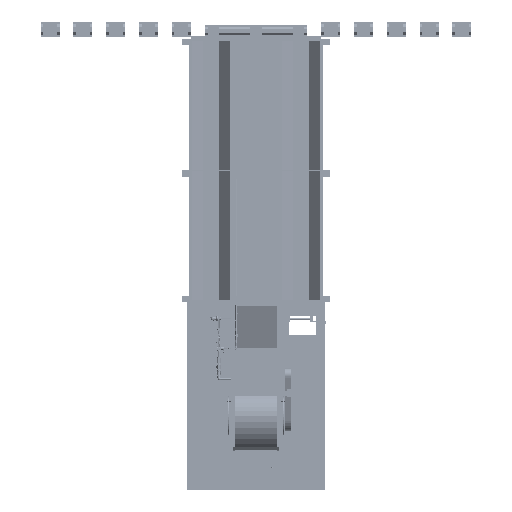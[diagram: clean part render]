
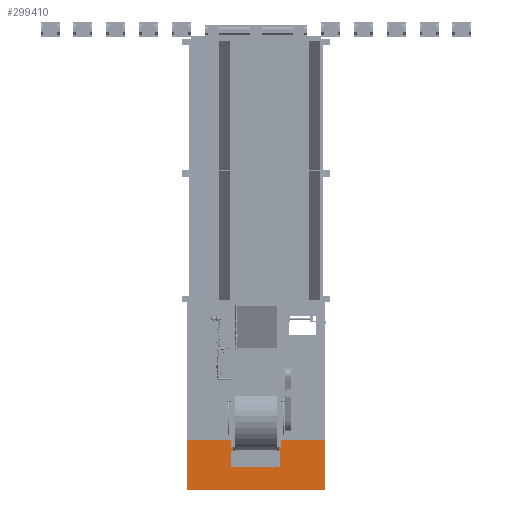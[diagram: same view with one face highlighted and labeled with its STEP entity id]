
A CAD part, front view. The second image highlights one B-rep face of the part: STEP entity #299410.
In plain terms, the highlighted planar face has unit normal (0, -1, 0) as drawn and (1, 0, 0) by its records, which use the part's own axes.
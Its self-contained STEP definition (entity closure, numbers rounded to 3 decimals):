
#59274=FACE_OUTER_BOUND('',#77280,.T.);
#77280=EDGE_LOOP('',(#270750,#270751,#270752,#270753));
#98766=LINE('',#727968,#121474);
#98802=LINE('',#728036,#121510);
#98814=LINE('',#728059,#121522);
#98815=LINE('',#728060,#121523);
#121474=VECTOR('',#397335,0.394);
#121510=VECTOR('',#397389,0.394);
#121522=VECTOR('',#397413,0.394);
#121523=VECTOR('',#397414,0.394);
#148794=VERTEX_POINT('',#727965);
#148795=VERTEX_POINT('',#727967);
#148818=VERTEX_POINT('',#728034);
#148823=VERTEX_POINT('',#728058);
#189846=EDGE_CURVE('',#148794,#148795,#98766,.T.);
#189882=EDGE_CURVE('',#148794,#148818,#98802,.T.);
#189894=EDGE_CURVE('',#148818,#148823,#98814,.T.);
#189895=EDGE_CURVE('',#148823,#148795,#98815,.T.);
#270750=ORIENTED_EDGE('',*,*,#189882,.T.);
#270751=ORIENTED_EDGE('',*,*,#189894,.T.);
#270752=ORIENTED_EDGE('',*,*,#189895,.T.);
#270753=ORIENTED_EDGE('',*,*,#189846,.F.);
#283426=PLANE('',#326502);
#299410=ADVANCED_FACE('',(#59274),#283426,.T.);
#326502=AXIS2_PLACEMENT_3D('',#728057,#397411,#397412);
#397335=DIRECTION('',(0.,0.,1.));
#397389=DIRECTION('',(0.,1.,0.));
#397411=DIRECTION('center_axis',(1.,0.,0.));
#397412=DIRECTION('ref_axis',(0.,0.,-1.));
#397413=DIRECTION('',(0.,0.,1.));
#397414=DIRECTION('',(0.,-1.,0.));
#727965=CARTESIAN_POINT('',(-0.125,-30.,101.063));
#727967=CARTESIAN_POINT('',(-0.125,-30.,137.75));
#727968=CARTESIAN_POINT('',(-0.125,-30.,0.));
#728034=CARTESIAN_POINT('',(-0.125,70.5,101.063));
#728036=CARTESIAN_POINT('',(-0.125,20.25,101.063));
#728057=CARTESIAN_POINT('Origin',(-0.125,70.5,0.));
#728058=CARTESIAN_POINT('',(-0.125,70.5,137.75));
#728059=CARTESIAN_POINT('',(-0.125,70.5,0.));
#728060=CARTESIAN_POINT('',(-0.125,-30.,137.75));
